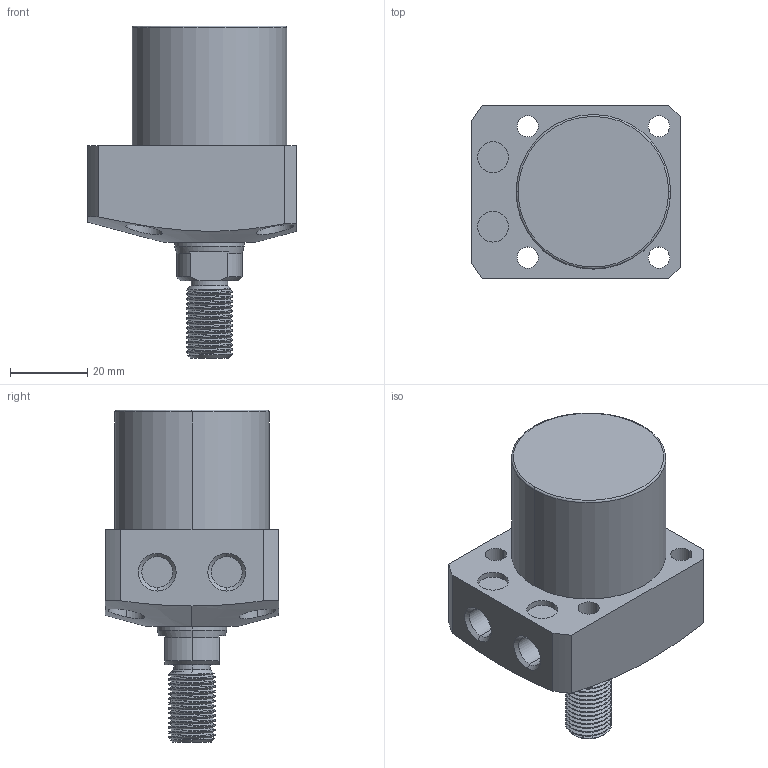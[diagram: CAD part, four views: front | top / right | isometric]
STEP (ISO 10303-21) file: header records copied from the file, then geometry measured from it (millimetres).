
FILE_DESCRIPTION (( 'STEP AP203' ), '1' );
FILE_NAME ('CLL-040CT-020.STEP', '2020-01-08T08:57:02', ( '' ), ( '' ), 'SwSTEP 2.0', 'SolidWorks 2015', '' );
FILE_SCHEMA (( 'CONFIG_CONTROL_DESIGN' ));
Length unit declared in the file: millimetre
Products named in the file (1): CLL-040CT-020
Bounding box: 54 x 45 x 86 mm (x, y, z)
Volume: 93329 mm3; surface area: 16705 mm2
Topology: 1 solids, 1 shells, 106 faces, 267 edges, 174 vertices
Faces by surface type: cylinder 63, plane 23, cone 16, torus 2, bspline 2
Entity records: 5216 total; most frequent: CARTESIAN_POINT 2734, ORIENTED_EDGE 534, DIRECTION 472, EDGE_CURVE 267, AXIS2_PLACEMENT_3D 189, VERTEX_POINT 174, EDGE_LOOP 125, FACE_OUTER_BOUND 106
